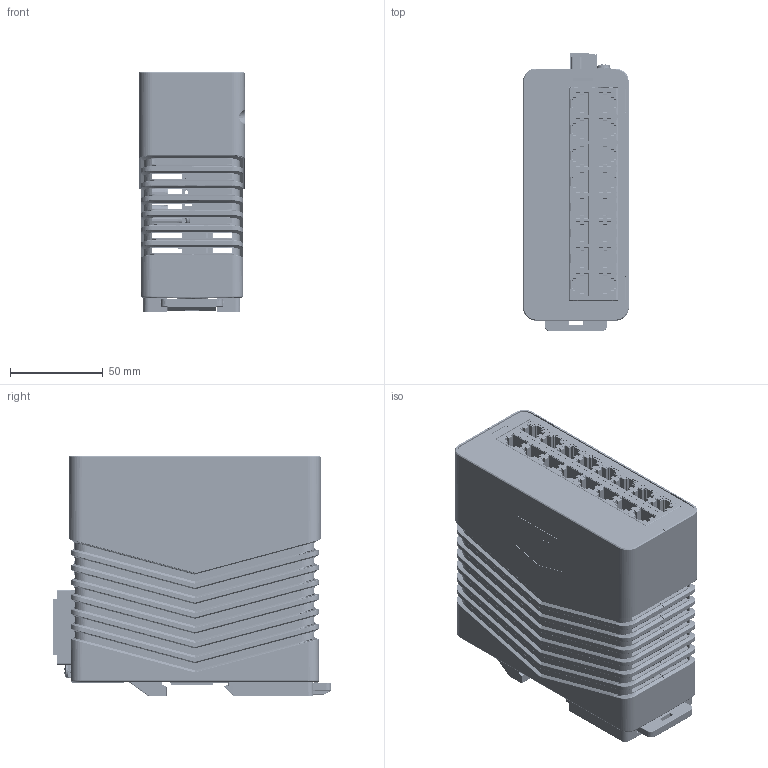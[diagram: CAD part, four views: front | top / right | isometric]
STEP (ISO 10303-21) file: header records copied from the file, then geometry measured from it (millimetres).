
FILE_DESCRIPTION (( 'STEP AP214' ), '1' );
FILE_NAME ('NT5016.STEP', '2023-01-25T16:02:05', ( '' ), ( '' ), 'SwSTEP 2.0', 'SolidWorks 2022', '' );
FILE_SCHEMA (( 'AUTOMOTIVE_DESIGN' ));
Length unit declared in the file: millimetre
Products named in the file (22): 11860; 11836; 11703_11703; 11620; 11820_95345A444; Front Overlays_16RJs no Daughter Board; 11631; NHF00001; label bulkhead; LOGO Sticker; 96439A130_18-8 SS PRESS-FIT NUT FOR SHEET METAL_96439A130; 11635-01_Jubilee_18port_sp02; 10670; 11619; NPTP0061; 11618; NT5016; 11622_Wide; 10778; HWSMCZ08_95345A426; 11631_ cutouts concept wide; 11821
Assembly tree (37 placements, depth 3):
  NT5016
    11619
    11620
    11622_Wide
    11618
    11703_11703
    11631
      11631_ cutouts concept wide
      96439A130_18-8 SS PRESS-FIT NUT FOR SHEET METAL_96439A130  x2
    HWSMCZ08_95345A426  x10
    11820_95345A444  x4
    11836  x2
    11821
    10778
    Front Overlays_16RJs no Daughter Board
    label bulkhead
    LOGO Sticker
    11635-01_Jubilee_18port_sp02
    10670
    NPTP0061
    NHF00001  x2
    11860  x2
Bounding box: 57.23 x 150.55 x 129.79 mm (x, y, z)
Volume: 255808.5 mm3; surface area: 260929.1 mm2
Topology: 58 solids, 62 shells, 14883 faces, 39555 edges, 25429 vertices
Faces by surface type: plane 9535, cylinder 3118, bspline 1361, cone 408, torus 341, sphere 120
Entity records: 494603 total; most frequent: CARTESIAN_POINT 128960, ORIENTED_EDGE 64917, DIRECTION 57293, EDGE_CURVE 32481, VECTOR 24925, LINE 24925, VERTEX_POINT 21003, AXIS2_PLACEMENT_3D 16184
